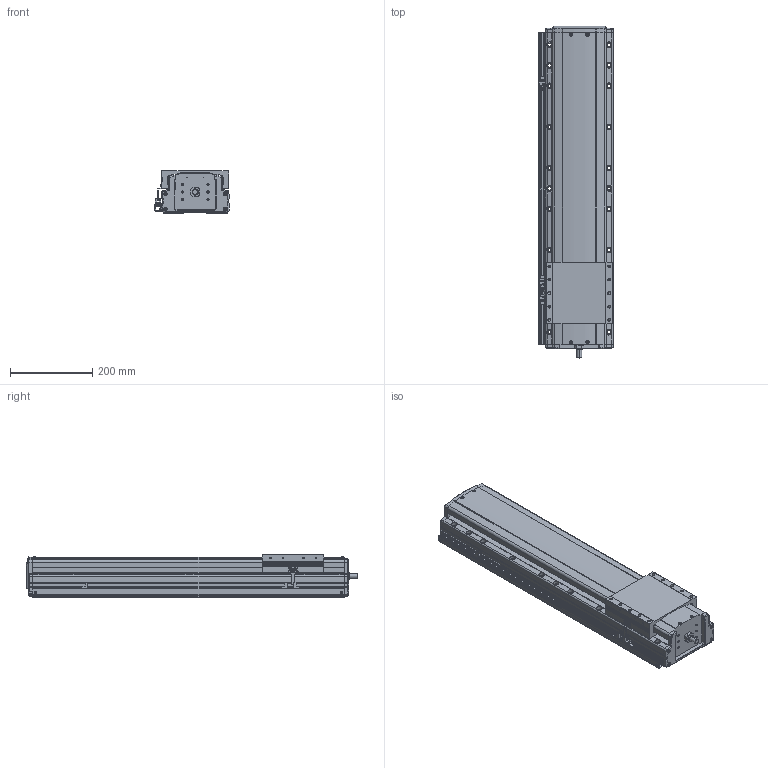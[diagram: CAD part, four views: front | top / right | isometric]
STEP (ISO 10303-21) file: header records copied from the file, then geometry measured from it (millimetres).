
FILE_DESCRIPTION(('STEP AP214'),'1');
FILE_NAME('Z:/Web/3D/PSA165/STP/PSA165-500 (3D)/PSA165ㅁㅁ-500+3SL.stp','2014-06-23T11:16:23',(' '),(' '),'Spatial InterOp 3D',' ',' ');
FILE_SCHEMA(('automotive_design'));
Length unit declared in the file: millimetre
Products named in the file (36): 스크루 : Round - M4.0 x 12.0; RRCV-PA160; BASE; 스크루 : Round - M4.0 x 10.0; RN15; Screw 20; SLIDE; FRCV; M3.0 x 6.0; SRL-16x17-360L; SGD-SAN150; EE-SX674; SBK-SX674-352; 스크루 : Round - M3.0 x 6.0; BHCS M4.0 x 10.0
Bounding box: 181 x 808.8 x 104 mm (x, y, z)
Volume: 10897060.7 mm3; surface area: 813085 mm2
Topology: 36 solids, 36 shells, 2392 faces, 6433 edges, 4141 vertices
Faces by surface type: plane 1399, cylinder 707, cone 193, sphere 52, bspline 25, torus 16
Entity records: 97302 total; most frequent: CARTESIAN_POINT 16920, DIRECTION 12733, ORIENTED_EDGE 12614, EDGE_CURVE 6307, LINE 4317, VECTOR 4317, AXIS2_PLACEMENT_3D 4208, VERTEX_POINT 4141
